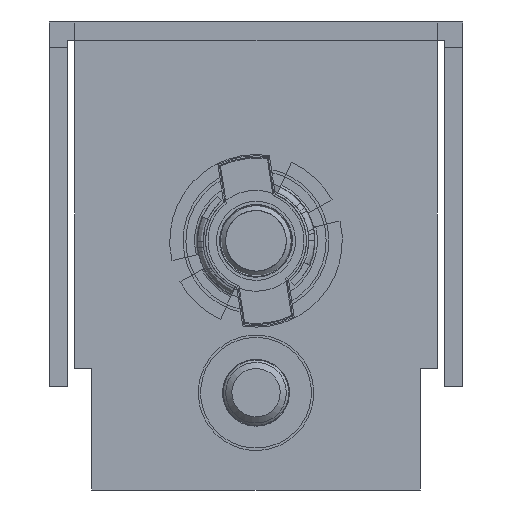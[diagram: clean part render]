
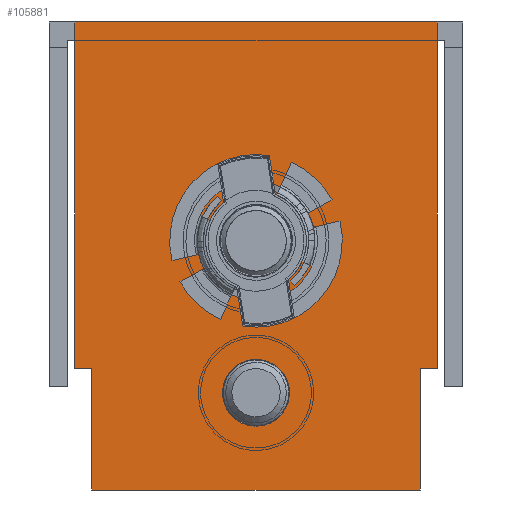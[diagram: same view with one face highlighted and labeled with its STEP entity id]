
A CAD part, left-side view. The second image highlights one B-rep face of the part: STEP entity #105881.
In plain terms, the highlighted planar face has unit normal (-1, 0, 0).
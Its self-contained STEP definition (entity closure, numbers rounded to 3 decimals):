
#8986 = VERTEX_POINT('',#8987);
#8987 = CARTESIAN_POINT('',(-749.,-14.9,1.5));
#9066 = VERTEX_POINT('',#9067);
#9067 = CARTESIAN_POINT('',(-749.,14.9,1.5));
#9073 = EDGE_CURVE('',#9066,#8986,#9074,.T.);
#9074 = LINE('',#9075,#9076);
#9075 = CARTESIAN_POINT('',(-749.,0.,1.5));
#9076 = VECTOR('',#9077,1.);
#9077 = DIRECTION('',(0.,-1.,0.));
#105769 = VERTEX_POINT('',#105770);
#105770 = CARTESIAN_POINT('',(-749.,14.9,-0.6));
#105776 = EDGE_CURVE('',#105769,#9066,#105777,.T.);
#105777 = LINE('',#105778,#105779);
#105778 = CARTESIAN_POINT('',(-749.,14.9,0.));
#105779 = VECTOR('',#105780,1.);
#105780 = DIRECTION('',(0.,-0.,1.));
#105794 = VERTEX_POINT('',#105795);
#105795 = CARTESIAN_POINT('',(-749.,-14.9,-0.6));
#105809 = EDGE_CURVE('',#105794,#8986,#105810,.T.);
#105810 = LINE('',#105811,#105812);
#105811 = CARTESIAN_POINT('',(-749.,-14.9,-0.6));
#105812 = VECTOR('',#105813,1.);
#105813 = DIRECTION('',(0.,0.,1.));
#105832 = VERTEX_POINT('',#105833);
#105833 = CARTESIAN_POINT('',(-749.,14.9,-27.));
#105839 = EDGE_CURVE('',#105769,#105832,#105840,.T.);
#105840 = LINE('',#105841,#105842);
#105841 = CARTESIAN_POINT('',(-749.,14.9,-37.));
#105842 = VECTOR('',#105843,1.);
#105843 = DIRECTION('',(0.,0.,-1.));
#105854 = EDGE_CURVE('',#105855,#105794,#105857,.T.);
#105855 = VERTEX_POINT('',#105856);
#105856 = CARTESIAN_POINT('',(-749.,-14.9,-27.));
#105857 = LINE('',#105858,#105859);
#105858 = CARTESIAN_POINT('',(-749.,-14.9,0.));
#105859 = VECTOR('',#105860,1.);
#105860 = DIRECTION('',(0.,0.,1.));
#105881 = ADVANCED_FACE('',(#105882,#105893,#105904),#105949,.F.);
#105882 = FACE_BOUND('',#105883,.T.);
#105883 = EDGE_LOOP('',(#105884));
#105884 = ORIENTED_EDGE('',*,*,#105885,.T.);
#105885 = EDGE_CURVE('',#105886,#105886,#105888,.T.);
#105886 = VERTEX_POINT('',#105887);
#105887 = CARTESIAN_POINT('',(-749.,0.,-19.75));
#105888 = CIRCLE('',#105889,3.25);
#105889 = AXIS2_PLACEMENT_3D('',#105890,#105891,#105892);
#105890 = CARTESIAN_POINT('',(-749.,0.,-16.5));
#105891 = DIRECTION('',(1.,0.,0.));
#105892 = DIRECTION('',(0.,0.,-1.));
#105893 = FACE_BOUND('',#105894,.T.);
#105894 = EDGE_LOOP('',(#105895));
#105895 = ORIENTED_EDGE('',*,*,#105896,.T.);
#105896 = EDGE_CURVE('',#105897,#105897,#105899,.T.);
#105897 = VERTEX_POINT('',#105898);
#105898 = CARTESIAN_POINT('',(-749.,0.,-31.75));
#105899 = CIRCLE('',#105900,2.75);
#105900 = AXIS2_PLACEMENT_3D('',#105901,#105902,#105903);
#105901 = CARTESIAN_POINT('',(-749.,0.,-29.));
#105902 = DIRECTION('',(1.,0.,0.));
#105903 = DIRECTION('',(0.,0.,-1.));
#105904 = FACE_BOUND('',#105905,.T.);
#105905 = EDGE_LOOP('',(#105906,#105916,#105922,#105923,#105924,#105925,
    #105926,#105927,#105935,#105943));
#105906 = ORIENTED_EDGE('',*,*,#105907,.T.);
#105907 = EDGE_CURVE('',#105908,#105910,#105912,.T.);
#105908 = VERTEX_POINT('',#105909);
#105909 = CARTESIAN_POINT('',(-749.,-13.5,-37.));
#105910 = VERTEX_POINT('',#105911);
#105911 = CARTESIAN_POINT('',(-749.,-13.5,-27.));
#105912 = LINE('',#105913,#105914);
#105913 = CARTESIAN_POINT('',(-749.,-13.5,-37.));
#105914 = VECTOR('',#105915,1.);
#105915 = DIRECTION('',(0.,0.,1.));
#105916 = ORIENTED_EDGE('',*,*,#105917,.T.);
#105917 = EDGE_CURVE('',#105910,#105855,#105918,.T.);
#105918 = LINE('',#105919,#105920);
#105919 = CARTESIAN_POINT('',(-749.,-14.9,-27.));
#105920 = VECTOR('',#105921,1.);
#105921 = DIRECTION('',(-0.,-1.,-0.));
#105922 = ORIENTED_EDGE('',*,*,#105854,.T.);
#105923 = ORIENTED_EDGE('',*,*,#105809,.T.);
#105924 = ORIENTED_EDGE('',*,*,#9073,.F.);
#105925 = ORIENTED_EDGE('',*,*,#105776,.F.);
#105926 = ORIENTED_EDGE('',*,*,#105839,.T.);
#105927 = ORIENTED_EDGE('',*,*,#105928,.T.);
#105928 = EDGE_CURVE('',#105832,#105929,#105931,.T.);
#105929 = VERTEX_POINT('',#105930);
#105930 = CARTESIAN_POINT('',(-749.,13.5,-27.));
#105931 = LINE('',#105932,#105933);
#105932 = CARTESIAN_POINT('',(-749.,14.9,-27.));
#105933 = VECTOR('',#105934,1.);
#105934 = DIRECTION('',(0.,-1.,0.));
#105935 = ORIENTED_EDGE('',*,*,#105936,.T.);
#105936 = EDGE_CURVE('',#105929,#105937,#105939,.T.);
#105937 = VERTEX_POINT('',#105938);
#105938 = CARTESIAN_POINT('',(-749.,13.5,-37.));
#105939 = LINE('',#105940,#105941);
#105940 = CARTESIAN_POINT('',(-749.,13.5,-37.));
#105941 = VECTOR('',#105942,1.);
#105942 = DIRECTION('',(-0.,0.,-1.));
#105943 = ORIENTED_EDGE('',*,*,#105944,.T.);
#105944 = EDGE_CURVE('',#105937,#105908,#105945,.T.);
#105945 = LINE('',#105946,#105947);
#105946 = CARTESIAN_POINT('',(-749.,-14.9,-37.));
#105947 = VECTOR('',#105948,1.);
#105948 = DIRECTION('',(0.,-1.,0.));
#105949 = PLANE('',#105950);
#105950 = AXIS2_PLACEMENT_3D('',#105951,#105952,#105953);
#105951 = CARTESIAN_POINT('',(-749.,0.,
    0.));
#105952 = DIRECTION('',(1.,0.,0.));
#105953 = DIRECTION('',(0.,1.,0.));
